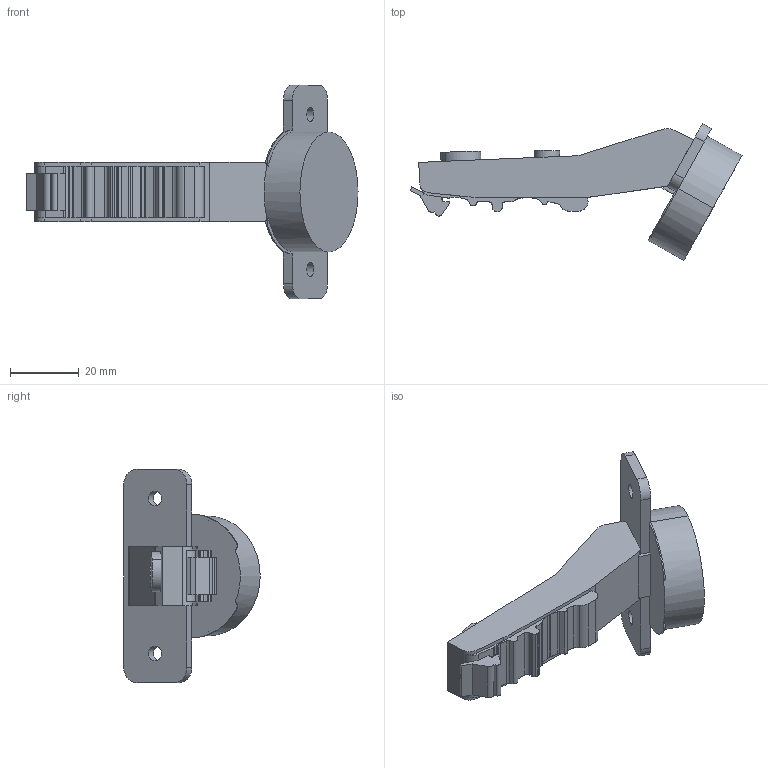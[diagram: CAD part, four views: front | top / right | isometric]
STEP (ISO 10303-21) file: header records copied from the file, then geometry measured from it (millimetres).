
FILE_DESCRIPTION (( 'STEP AP214' ), '1' );
FILE_NAME ('C82W675FA-Close.STEP', '2025-07-21T05:47:52', ( '微软用户' ), ( '微软中国' ), 'SwSTEP 2.0', 'SolidWorks 2021', '' );
FILE_SCHEMA (( 'AUTOMOTIVE_DESIGN' ));
Length unit declared in the file: millimetre
Products named in the file (1): C82W675FA-Close
Bounding box: 96.43 x 39.64 x 61.96 mm (x, y, z)
Volume: 33150 mm3; surface area: 10538 mm2
Topology: 1 solids, 2 shells, 137 faces, 395 edges, 264 vertices
Faces by surface type: plane 72, cylinder 65
Entity records: 4583 total; most frequent: CARTESIAN_POINT 815, DIRECTION 801, ORIENTED_EDGE 790, EDGE_CURVE 395, AXIS2_PLACEMENT_3D 274, VERTEX_POINT 264, LINE 253, VECTOR 253
